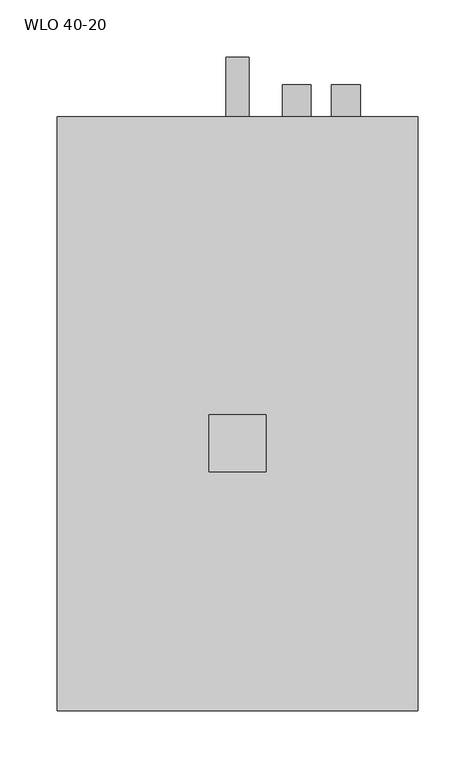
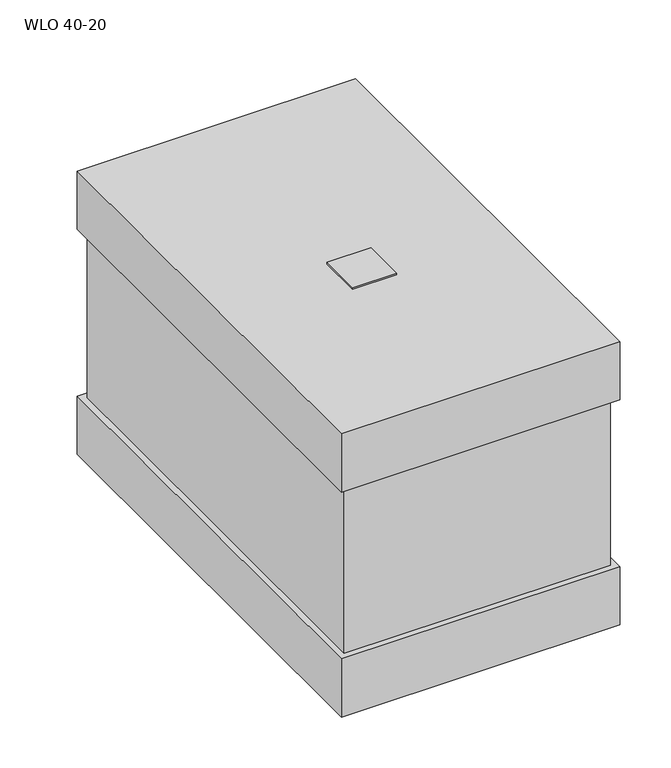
"""IFC4 building model written with IfcOpenShell, lengths in millimetres: proxy geometry, KORF_Воздухоохладитель_Водяной_WLO_Правый : WLO 40-20."""

from ifc_helpers import new_model, si_unit, point, frame, frame_2d, origin, place, context, project, spatial, polyline, circle_curve, trimmed, segment, composite_curve, outline, extrude, faceted_brep, source, transform, mapped, element, save


def wlo_40_20_1f1df35e(model_context):
    return source(origin(), model_context, "Body", "SolidModel", [
        extrude(outline(polyline([(133.0, -25.0), (133.0, 25.0), (183.0, 25.0), (183.0, -25.0), (133.0, -25.0)])), frame((0.0, 0.0, 170.0), z_axis=(0.0, 0.0, 1.0), x_axis=(1.0, 0.0, 0.0)), (0.0, 0.0, 1.0), 2.0),
        faceted_brep([(316.0, -234.0, 170.0), (316.0, -234.0, 100.0), (316.0, 286.0, 100.0), (316.0, 286.0, 170.0), (316.0, -234.0, -100.0), (316.0, -234.0, -170.0), (316.0, 286.0, -170.0), (316.0, 286.0, -100.0), (0.0, -234.0, 170.0), (0.0, 286.0, 170.0), (0.0, 286.0, 100.0), (0.0, -234.0, 100.0), (0.0, -234.0, -100.0), (0.0, 286.0, -100.0), (0.0, 286.0, -170.0), (0.0, -234.0, -170.0), (7.0, -227.0, 100.0), (309.0, -227.0, 100.0), (309.0, -200.0, 100.0), (309.0, 200.0, 100.0), (309.0, 279.0, 100.0), (7.0, 279.0, 100.0), (7.0, 200.0, 100.0), (7.0, -200.0, 100.0), (309.0, -227.0, -100.0), (7.0, -227.0, -100.0), (7.0, -200.0, -100.0), (7.0, 200.0, -100.0), (7.0, 279.0, -100.0), (309.0, 279.0, -100.0), (309.0, 200.0, -100.0), (309.0, -200.0, -100.0)], [[[0, 1, 2, 3]], [[4, 5, 6, 7]], [[8, 9, 10, 11]], [[12, 13, 14, 15]], [[1, 0, 8, 11]], [[2, 1, 11, 10], [16, 17, 18, 19, 20, 21, 22, 23]], [[3, 2, 10, 9]], [[0, 3, 9, 8]], [[5, 4, 12, 15]], [[6, 5, 15, 14]], [[7, 6, 14, 13]], [[4, 7, 13, 12], [24, 25, 26, 27, 28, 29, 30, 31]], [[17, 24, 31, 30, 29, 20, 19, 18]], [[21, 28, 27, 26, 25, 16, 23, 22]], [[24, 17, 16, 25]], [[20, 29, 28, 21]]]),
        extrude(outline(composite_curve([segment(trimmed(circle_curve(frame_2d((50.0, 253.0)), 12.5), [point((50.0, 240.5))], [point((50.0, 265.5))], False, "CARTESIAN"), True, "CONTINUOUS"), segment(trimmed(circle_curve(frame_2d((50.0, 253.0)), 12.5), [point((50.0, 265.5))], [point((50.0, 240.5))], False, "CARTESIAN"), True, "CONTINUOUS")], self_intersect=False)), frame((0.0, 279.0, 0.0), z_axis=(0.0, 1.0, 0.0), x_axis=(0.0, 0.0, 1.0)), (0.0, 0.0, 1.0), 35.0),
        extrude(outline(composite_curve([segment(trimmed(circle_curve(frame_2d((-50.0, 210.0)), 12.5), [point((-50.0, 197.5))], [point((-50.0, 222.5))], False, "CARTESIAN"), True, "CONTINUOUS"), segment(trimmed(circle_curve(frame_2d((-50.0, 210.0)), 12.5), [point((-50.0, 222.5))], [point((-50.0, 197.5))], False, "CARTESIAN"), True, "CONTINUOUS")], self_intersect=False)), frame((0.0, 279.0, 0.0), z_axis=(0.0, 1.0, 0.0), x_axis=(0.0, 0.0, 1.0)), (0.0, 0.0, 1.0), 35.0),
        extrude(outline(composite_curve([segment(trimmed(circle_curve(frame_2d((-152.0, 158.0)), 10.0), [point((-152.0, 148.0))], [point((-152.0, 168.0))], False, "CARTESIAN"), True, "CONTINUOUS"), segment(trimmed(circle_curve(frame_2d((-152.0, 158.0)), 10.0), [point((-152.0, 168.0))], [point((-152.0, 148.0))], False, "CARTESIAN"), True, "CONTINUOUS")], self_intersect=False)), frame((0.0, 286.0, 0.0), z_axis=(0.0, 1.0, 0.0), x_axis=(0.0, 0.0, 1.0)), (0.0, 0.0, 1.0), 52.0),
    ])


if __name__ == "__main__":
    model = new_model("IFC4")
    model_context = context("Model", 3, world=origin())
    ifc_project = project(units=[si_unit("LENGTHUNIT", "METRE", prefix="MILLI")], contexts=[model_context])
    site = spatial("IfcSite", under=ifc_project)
    building = spatial("IfcBuilding", under=site)
    placement = place(None, origin())
    wlo_40_20_shape = wlo_40_20_1f1df35e(model_context)
    element("IfcBuildingElementProxy", 1, Name="KORF_Воздухоохладитель_Водяной_WLO_Правый : WLO 40-20", ObjectType="KORF_Воздухоохладитель_Водяной_WLO_Правый : WLO 40-20", at=placement, inside=building, context=model_context, shape_type="MappedRepresentation", body=[
        mapped(wlo_40_20_shape, transform((0.0, 0.0, 0.0), x_axis=(1.0, 0.0, 0.0), y_axis=(0.0, 1.0, 0.0), z_axis=(0.0, 0.0, 1.0))),
    ])
    save(model, "model.ifc")
